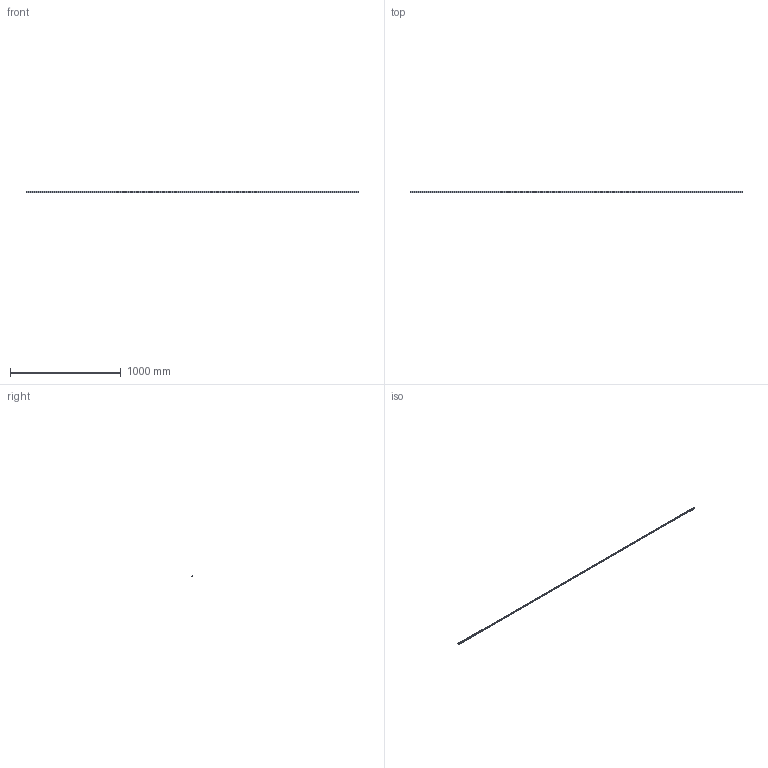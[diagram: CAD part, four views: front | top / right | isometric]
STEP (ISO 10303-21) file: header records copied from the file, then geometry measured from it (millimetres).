
FILE_DESCRIPTION( ( '' ), '1' );
FILE_NAME( 'D:/temp/hettich_stp/hettich/4_folding_sliding/4.6_accessories/runner_guide_profile/1057287.stp', '2013-02-26T10:24:32', ( '' ), ( '' ), ' ', ' ', ' ' );
FILE_SCHEMA( ( 'automotive_design' ) );
Length unit declared in the file: millimetre
Products named in the file (1): 1
Bounding box: 3000 x 18 x 13.5 mm (x, y, z)
Volume: 126465.3 mm3; surface area: 224151.2 mm2
Topology: 1 solids, 1 shells, 59 faces, 171 edges, 114 vertices
Faces by surface type: plane 34, cylinder 25
Entity records: 3876 total; most frequent: STYLED_ITEM 345, PRESENTATION_STYLE_ASSIGNMENT 345, CARTESIAN_POINT 345, COLOUR_RGB 345, ORIENTED_EDGE 342, DIRECTION 341, EDGE_CURVE 171, CURVE_STYLE 171
